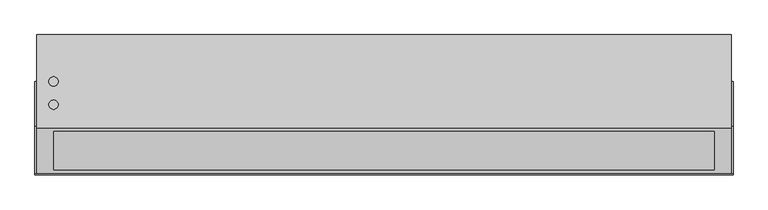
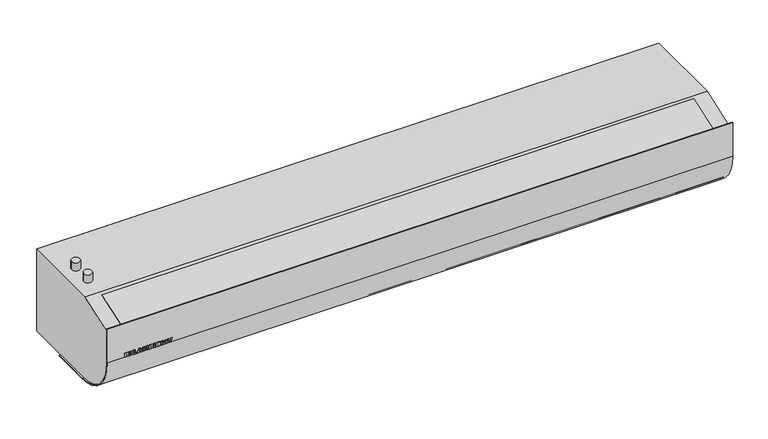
"""IFC4 building model written with IfcOpenShell, lengths in millimetres: proxy geometry, ИЗТТ_Завеса_Водяная : KVC-B15W14-11."""

import ifcopenshell
import ifcopenshell.guid

model = None  # the IFC model being written
_history = None  # IfcOwnerHistory: only IFC2X3 demands one
_inside = {}  # id of a spatial element -> (the spatial element, [elements in it])
_under = {}  # id of a project, library or spatial element -> (it, [spatial elements below it])
_declared = {}  # id of a project -> (the project, [libraries it declares])
_typed = {}  # id of a type object -> (the type object, [elements of that type])
_made_of = {}  # id of a material, layer set ... -> (it, [elements and type objects made of it])


def new_model(schema):
    """Start an empty IFC model of exactly this schema.

    Asked for "IFC4X3", IfcOpenShell would pick the latest addendum, in which some entities
    have other attributes; the version numbers below select the first issue.
    IFC2X3 requires an IfcOwnerHistory on every rooted entity: one is made here for all.
    """
    global model, _history
    if schema == "IFC4X3":
        model = ifcopenshell.file(schema_version=(4, 3, 0, 0))
    else:
        model = ifcopenshell.file(schema=schema)
    _inside.clear()
    _under.clear()
    _declared.clear()
    _typed.clear()
    _made_of.clear()
    _history = None
    if model.schema == "IFC2X3":
        org = make("IfcOrganization", Name="unknown")
        user = make(
            "IfcPersonAndOrganization",
            ThePerson=make("IfcPerson", FamilyName="unknown"),
            TheOrganization=org,
        )
        app = make(
            "IfcApplication",
            ApplicationDeveloper=org,
            Version="unknown",
            ApplicationFullName="unknown",
            ApplicationIdentifier="unknown",
        )
        _history = make(
            "IfcOwnerHistory",
            OwningUser=user,
            OwningApplication=app,
            ChangeAction="ADDED",
            CreationDate=0,
        )
    return model


def make(cls, **values):
    """One entity of the class cls with the attributes given. An attribute that is None is left unset."""
    return model.create_entity(
        cls, **{name: value for name, value in values.items() if value is not None}
    )


def rooted(cls, **values):
    """An entity with a GlobalId (a new one), such as an element, a storey or a relation."""
    return make(cls, GlobalId=ifcopenshell.guid.new(), OwnerHistory=_history, **values)


def si_unit(unit_type, name, prefix=None):
    """IfcSIUnit, for example si_unit("LENGTHUNIT", "METRE", prefix="MILLI")."""
    return make("IfcSIUnit", UnitType=unit_type, Prefix=prefix, Name=name)


def assignment(units):
    """IfcUnitAssignment: the units of a project."""
    return None if units is None else make("IfcUnitAssignment", Units=units)


def point(xyz):
    """IfcCartesianPoint."""
    return None if xyz is None else make("IfcCartesianPoint", Coordinates=xyz)


def direction(xyz):
    """IfcDirection."""
    return None if xyz is None else make("IfcDirection", DirectionRatios=xyz)


def frame(location, z_axis=None, x_axis=None):
    """IfcAxis2Placement3D, a coordinate frame: its origin and axes. An axis left out is left unset."""
    return make(
        "IfcAxis2Placement3D",
        Location=point(location),
        Axis=direction(z_axis),
        RefDirection=direction(x_axis),
    )


def frame_2d(location, x_axis=None):
    """IfcAxis2Placement2D, a coordinate frame in the plane: its origin and x axis."""
    return make(
        "IfcAxis2Placement2D", Location=point(location), RefDirection=direction(x_axis)
    )


def origin():
    """The frame at (0, 0, 0) with its axes left unset."""
    return frame((0.0, 0.0, 0.0))


def place(relative_to, where):
    """IfcLocalPlacement: puts the frame where relative to a parent placement (None: the world)."""
    return make(
        "IfcLocalPlacement", PlacementRelTo=relative_to, RelativePlacement=where
    )


def context(
    kind, dimensions, precision=None, world=None, true_north=None, identifier=None
):
    """IfcGeometricRepresentationContext, for example the 3D "Model" context."""
    return make(
        "IfcGeometricRepresentationContext",
        ContextIdentifier=identifier,
        ContextType=kind,
        CoordinateSpaceDimension=dimensions,
        Precision=precision,
        WorldCoordinateSystem=world,
        TrueNorth=true_north,
    )


def project(units=None, contexts=None):
    """IfcProject with its units and contexts."""
    return rooted(
        "IfcProject",
        Name="project",
        RepresentationContexts=contexts,
        UnitsInContext=assignment(units),
    )


def spatial(cls, under=None, at=None, **own):
    """A site, building, storey or space (cls), placed at a placement, below another one or the project."""
    s = rooted(cls, ObjectPlacement=at, **own)
    if under is not None:
        _under.setdefault(under.id(), (under, []))[1].append(s)
    return s


def polyline(points):
    """IfcPolyline through the points."""
    return make("IfcPolyline", Points=[point(p) for p in points])


def circle_curve(where, radius):
    """IfcCircle in the frame where."""
    return make("IfcCircle", Position=where, Radius=radius)


def trimmed(basis, trim1, trim2, sense, master):
    """IfcTrimmedCurve: the piece of a basis curve between two trims."""
    return make(
        "IfcTrimmedCurve",
        BasisCurve=basis,
        Trim1=trim1,
        Trim2=trim2,
        SenseAgreement=sense,
        MasterRepresentation=master,
    )


def segment(curve, same_sense, transition):
    """IfcCompositeCurveSegment."""
    return make(
        "IfcCompositeCurveSegment",
        Transition=transition,
        SameSense=same_sense,
        ParentCurve=curve,
    )


def composite_curve(segments, self_intersect=None):
    """IfcCompositeCurve: segments joined end to end."""
    return make("IfcCompositeCurve", Segments=segments, SelfIntersect=self_intersect)


def outline(outer, holes=None, kind="AREA"):
    """IfcArbitraryClosedProfileDef: a profile drawn as a closed curve; with holes, ...WithVoids."""
    if holes is None:
        return make("IfcArbitraryClosedProfileDef", ProfileType=kind, OuterCurve=outer)
    return make(
        "IfcArbitraryProfileDefWithVoids",
        ProfileType=kind,
        OuterCurve=outer,
        InnerCurves=holes,
    )


def extrude(swept, where, along, depth):
    """IfcExtrudedAreaSolid: the profile swept, set in the frame where, extruded along a direction by depth."""
    return make(
        "IfcExtrudedAreaSolid",
        SweptArea=swept,
        Position=where,
        ExtrudedDirection=direction(along),
        Depth=depth,
    )


def shape(context_of_items, identifier, shape_type, items):
    """IfcShapeRepresentation: the items that make up one representation, for example the "Body"."""
    return make(
        "IfcShapeRepresentation",
        ContextOfItems=context_of_items,
        RepresentationIdentifier=identifier,
        RepresentationType=shape_type,
        Items=items,
    )


def source(mapping_origin, context_of_items, identifier, shape_type, items):
    """IfcRepresentationMap: a shape defined once, which mapped items show again and again."""
    return make(
        "IfcRepresentationMap",
        MappingOrigin=mapping_origin,
        MappedRepresentation=shape(context_of_items, identifier, shape_type, items),
    )


def transform(
    local_origin,
    x_axis=None,
    y_axis=None,
    z_axis=None,
    scale=None,
    scale2=None,
    scale3=None,
    uniform=True,
):
    """IfcCartesianTransformationOperator3D, or its non-uniform kind. x_axis, y_axis, z_axis: its Axis1, 2, 3."""
    if uniform:
        return make(
            "IfcCartesianTransformationOperator3D",
            Axis1=direction(x_axis),
            Axis2=direction(y_axis),
            LocalOrigin=point(local_origin),
            Scale=scale,
            Axis3=direction(z_axis),
        )
    return make(
        "IfcCartesianTransformationOperator3DnonUniform",
        Axis1=direction(x_axis),
        Axis2=direction(y_axis),
        LocalOrigin=point(local_origin),
        Scale=scale,
        Axis3=direction(z_axis),
        Scale2=scale2,
        Scale3=scale3,
    )


def mapped(mapping_source, mapping_target):
    """IfcMappedItem: shows the shape of a source again, moved by a transform."""
    return make(
        "IfcMappedItem", MappingSource=mapping_source, MappingTarget=mapping_target
    )


def made_of(thing, what):
    """Note that an element or type object is made of a material, layer set ...; save() writes the relation."""
    if what is not None:
        _made_of.setdefault(what.id(), (what, []))[1].append(thing)
    return thing


def element(
    cls,
    number,
    at=None,
    inside=None,
    cuts=None,
    type_object=None,
    material=None,
    context=None,
    identifier="Body",
    shape_type=None,
    held_by="IfcProductDefinitionShape",
    body=None,
    shapes=None,
    **own,
):
    """One element of the class cls, such as IfcWall. Its Tag is "e" and its number.

    at: its placement. inside: the storey or other place that contains it. cuts: it is an
    opening in that element (IfcRelVoidsElement). A single representation is given by context,
    identifier, shape_type and body (its items); several are given by shapes. held_by: the class
    of the entity that holds the representations. save() writes the other relations.
    """
    e = rooted(cls, Tag="e%d" % number, ObjectPlacement=at, **own)
    if body is not None:
        shapes = [shape(context, identifier, shape_type, body)]
    if shapes is not None:
        e.Representation = make(held_by, Representations=shapes)
    if inside is not None:
        _inside.setdefault(inside.id(), (inside, []))[1].append(e)
    if cuts is not None:
        rooted(
            "IfcRelVoidsElement", RelatingBuildingElement=cuts, RelatedOpeningElement=e
        )
    if type_object is not None:
        _typed.setdefault(type_object.id(), (type_object, []))[1].append(e)
    return made_of(e, material)


def aggregate(whole, parts):
    """IfcRelAggregates: a whole, such as a stair, and the parts it consists of."""
    return rooted("IfcRelAggregates", RelatingObject=whole, RelatedObjects=parts)


def save(model, path):
    """Write the relations noted so far, then the file.

    IfcRelAggregates (storeys below a building ...), IfcRelContainedInSpatialStructure (elements
    in a storey), IfcRelDefinesByType, IfcRelAssociatesMaterial and IfcRelDeclares: one each for
    every whole, place, type object, material and project.
    """
    for whole, parts in _under.values():
        aggregate(whole, parts)
    for where, things in _inside.values():
        rooted(
            "IfcRelContainedInSpatialStructure",
            RelatedElements=things,
            RelatingStructure=where,
        )
    for kind, things in _typed.values():
        rooted("IfcRelDefinesByType", RelatedObjects=things, RelatingType=kind)
    for what, things in _made_of.values():
        rooted("IfcRelAssociatesMaterial", RelatedObjects=things, RelatingMaterial=what)
    for by, libraries in _declared.values():
        rooted("IfcRelDeclares", RelatingContext=by, RelatedDefinitions=libraries)
    model.write(path)


def plane_surface(at):
    """IfcPlane: the flat surface through the origin of the frame at, square to its z axis."""
    return make("IfcPlane", Position=at)


def cylinder_surface(at, radius):
    """IfcCylindricalSurface: all points at the distance radius from the z axis of the frame at."""
    return make("IfcCylindricalSurface", Position=at, Radius=radius)


def advanced_brep(points, edges, surfaces, faces):
    """IfcAdvancedBrep: a solid bounded by faces that lie on surfaces and meet in shared edges.

    An edge is (start, end): straight between two places in points (the first is 0);
    or (start, end, curve); or (start, end, curve, False) where it runs against its curve.
    A face is (place in surfaces, loops), or (place, loops, False) where it looks against
    its surface's normal. A loop lists edges by number (the first is 1), with a minus sign
    where the edge is run from its end to its start. The first loop is the outer one.
    """
    corners = [point(p) for p in points]
    vertices = [make("IfcVertexPoint", VertexGeometry=c) for c in corners]
    made = []
    for start, end, *more in edges:
        made.append(
            make(
                "IfcEdgeCurve",
                EdgeStart=vertices[start],
                EdgeEnd=vertices[end],
                EdgeGeometry=more[0] if more else make("IfcPolyline", Points=[corners[start], corners[end]]),
                SameSense=more[1] if len(more) > 1 else True,
            )
        )
    hull = []
    for where, loops, *sense in faces:
        bounds = []
        for j, loop in enumerate(loops):
            ring = [make("IfcOrientedEdge", EdgeElement=made[abs(k) - 1], Orientation=k > 0) for k in loop]
            bounds.append(
                make(
                    "IfcFaceOuterBound" if j == 0 else "IfcFaceBound",
                    Bound=make("IfcEdgeLoop", EdgeList=ring),
                    Orientation=True,
                )
            )
        hull.append(make("IfcAdvancedFace", Bounds=bounds, FaceSurface=surfaces[where], SameSense=sense[0] if sense else True))
    return make("IfcAdvancedBrep", Outer=make("IfcClosedShell", CfsFaces=hull))


def mechanical_equipment_baf8c299(model_context):
    return source(origin(), model_context, "Body", "SolidModel", [
        extrude(outline(polyline([(114.5, -709.0196078), (104.5, -709.0196078), (104.5, -705.8823529), (106.2647059, -705.8823529), (108.2745098, -704.1115196), (104.5, -702.2794118), (104.5, -698.4313725), (110.7775735, -701.9056373), (114.5, -698.627451), (114.5, -702.8982843), (110.7224265, -705.8823529), (114.5, -705.8823529), (114.5, -709.0196078)])), frame((0.0, -302.0, 0.0), z_axis=(0.0, 1.0, 0.0), x_axis=(0.0, 0.0, 1.0)), (0.0, 0.0, 1.0), 1.0),
        extrude(outline(polyline([(106.0686275, -691.4338235), (104.5, -690.9803922), (104.5, -687.6470588), (114.5, -691.0202206), (114.5, -695.0582108), (104.5, -698.4313725), (104.5, -695.0980392), (106.0686275, -694.6660539), (106.0686275, -691.4338235)]), holes=[polyline([(108.4215686, -692.0281863), (108.4215686, -694.0165441), (111.9540441, -693.0392157), (108.4215686, -692.0281863)])]), frame((0.0, -302.0, 0.0), z_axis=(0.0, 1.0, 0.0), x_axis=(0.0, 0.0, 1.0)), (0.0, 0.0, 1.0), 1.0),
        extrude(outline(polyline([(114.5, -686.6666667), (104.5, -686.6666667), (104.5, -678.8235294), (106.8529412, -678.8235294), (106.8529412, -683.5294118), (114.5, -683.5294118), (114.5, -686.6666667)])), frame((0.0, -302.0, 0.0), z_axis=(0.0, 1.0, 0.0), x_axis=(0.0, 0.0, 1.0)), (0.0, 0.0, 1.0), 1.0),
        extrude(outline(polyline([(106.0686275, -671.4338235), (104.5, -670.9803922), (104.5, -667.6470588), (114.5, -671.0202206), (114.5, -675.0582108), (104.5, -678.4313725), (104.5, -675.0980392), (106.0686275, -674.6660539), (106.0686275, -671.4338235)]), holes=[polyline([(108.4215686, -672.0281863), (108.4215686, -674.0165441), (111.9540441, -673.0392157), (108.4215686, -672.0281863)])]), frame((0.0, -302.0, 0.0), z_axis=(0.0, 1.0, 0.0), x_axis=(0.0, 0.0, 1.0)), (0.0, 0.0, 1.0), 1.0),
        extrude(outline(polyline([(107.8394608, -667.254902), (105.3026961, -666.1488971), (104.3039216, -662.6378676), (104.7297794, -660.2420343), (105.9813113, -658.7637868), (107.78125, -658.2352941), (109.2870711, -658.6305147), (110.4129902, -659.8958333), (111.3106618, -662.7757353), (112.9313725, -662.9074755), (112.6050858, -662.1338848), (111.5588235, -661.7647059), (111.7395833, -658.627451), (113.9883578, -659.8054534), (114.6960784, -662.6807598), (114.3039216, -665.1011029), (113.2285539, -666.4231005), (111.776348, -666.8627451), (109.8492647, -665.9957108), (108.6237745, -663.1219363), (107.3186275, -661.372549), (106.5818015, -661.6865809), (106.2647059, -662.5796569), (106.8958333, -663.7775735), (108.0294118, -664.1176471), (107.8394608, -667.254902)])), frame((0.0, -302.0, 0.0), z_axis=(0.0, 1.0, 0.0), x_axis=(0.0, 0.0, 1.0)), (0.0, 0.0, 1.0), 1.0),
        extrude(outline(polyline([(114.5, -656.6666667), (104.5, -656.6666667), (104.5, -653.5294118), (108.6176471, -653.5294118), (108.6176471, -650.1960784), (104.5, -650.1960784), (104.5, -647.0588235), (114.5, -647.0588235), (114.5, -650.1960784), (110.9705882, -650.1960784), (110.9705882, -653.5294118), (114.5, -653.5294118), (114.5, -656.6666667)])), frame((0.0, -302.0, 0.0), z_axis=(0.0, 1.0, 0.0), x_axis=(0.0, 0.0, 1.0)), (0.0, 0.0, 1.0), 1.0),
        extrude(outline(polyline([(114.5, -645.0980392), (104.5, -645.0980392), (104.5, -642.1568627), (109.9901961, -642.1568627), (104.5, -638.4313725), (104.5, -635.4901961), (114.5, -635.4901961), (114.5, -638.4313725), (108.9730392, -638.4313725), (114.5, -642.1783088), (114.5, -645.0980392)])), frame((0.0, -302.0, 0.0), z_axis=(0.0, 1.0, 0.0), x_axis=(0.0, 0.0, 1.0)), (0.0, 0.0, 1.0), 1.0),
        extrude(outline(polyline([(-630.1960784, -302.0), (-633.3333333, -302.0), (-633.3333333, -301.0), (-630.1960784, -301.0), (-630.1960784, -302.0)])), frame((0.0, 0.0, 104.5), z_axis=(0.0, 0.0, 1.0), x_axis=(1.0, 0.0, 0.0)), (0.0, 0.0, 1.0), 10.0),
        extrude(outline(polyline([(114.5, -628.0392157), (104.5, -628.0392157), (104.5, -624.9019608), (106.2647059, -624.9019608), (108.2745098, -623.1311275), (104.5, -621.2990196), (104.5, -617.4509804), (110.7775735, -620.9252451), (114.5, -617.6470588), (114.5, -621.9178922), (110.7224265, -624.9019608), (114.5, -624.9019608), (114.5, -628.0392157)])), frame((0.0, -302.0, 0.0), z_axis=(0.0, 1.0, 0.0), x_axis=(0.0, 0.0, 1.0)), (0.0, 0.0, 1.0), 1.0),
        extrude(outline(polyline([(109.4938725, -616.8627451), (106.5603554, -616.171875), (104.846201, -614.3688725), (104.3039216, -611.5594363), (104.9304534, -608.7729779), (106.6859681, -607.0618873), (109.5765931, -606.4705882), (113.3495711, -607.8247549), (114.6960784, -611.685049), (113.3250613, -615.4947917), (109.4938725, -616.8627451)]), holes=[polyline([(109.4938725, -613.7254902), (111.6813725, -613.1678922), (112.3431373, -611.6911765), (111.6920956, -610.1685049), (109.6286765, -609.6078431), (107.3048407, -610.145527), (106.6568627, -611.6636029), (107.3186275, -613.1709559), (109.4938725, -613.7254902)])]), frame((0.0, -302.0, 0.0), z_axis=(0.0, 1.0, 0.0), x_axis=(0.0, 0.0, 1.0)), (0.0, 0.0, 1.0), 1.0),
        extrude(outline(polyline([(114.5, -605.6862745), (104.5, -601.9699755), (104.5, -598.6397059), (114.5, -594.9019608), (114.5, -598.2352941), (107.3033088, -600.2941176), (114.5, -602.3560049), (114.5, -605.6862745)])), frame((0.0, -302.0, 0.0), z_axis=(0.0, 1.0, 0.0), x_axis=(0.0, 0.0, 1.0)), (0.0, 0.0, 1.0), 1.0),
        extrude(outline(polyline([(-20.0555556, 10.0), (-20.0555556, 0.0), (-36.1111111, 10.0), (-36.1111111, 0.0), (-52.1666667, 10.0), (-52.1666667, 0.0), (-68.2222222, 10.0), (-68.2222222, 0.0), (-84.2777778, 10.0), (-84.2777778, 0.0), (-100.2499831, 10.5360909), (-4.0, 10.5360909), (-4.0, 0.0), (-20.0555556, 10.0)])), frame((-710.0, 0.0, 0.0), z_axis=(1.0, 0.0, 0.0), x_axis=(0.0, 1.0, 0.0)), (0.0, 0.0, 1.0), 1420.0),
        advanced_brep(
        [(746.0, -200.6666667, 209.0), (746.0, -299.0, 174.0), (746.0, -299.0, 104.5), (746.0, -196.5, 2.0), (746.0, 0.0, 2.0), (746.0, 0.0, 209.0), (-746.0, -200.6666667, 209.0), (-746.0, 0.0, 209.0), (-746.0, 0.0, 2.0), (-746.0, -196.5, 2.0), (-746.0, -299.0, 104.5), (-746.0, -299.0, 174.0), (-700.0, -150.5, 209.0), (-720.0, -150.5, 209.0), (-700.0, -100.3333333, 209.0), (-720.0, -100.3333333, 209.0), (710.0, -4.0, 2.0), (-710.0, -4.0, 2.0), (-710.0, -100.3333333, 2.0), (710.0, -100.3333333, 2.0), (710.0, -4.0, 10.0), (710.0, -100.3333333, 10.0), (-710.0, -100.3333333, 10.0), (-710.0, -4.0, 10.0), (-720.0, -150.5, 229.0), (-700.0, -150.5, 229.0), (-720.0, -100.3333333, 229.0), (-700.0, -100.3333333, 229.0)],
        [
            (0, 1),
            (1, 2),
            (2, 3, circle_curve(frame((746.0, -196.5, 104.5), z_axis=(1.0, 0.0, 0.0), x_axis=(0.0, 1.0, 0.0)), 102.5)),
            (3, 4),
            (4, 5),
            (5, 0),
            (6, 7),
            (7, 8),
            (8, 9),
            (9, 10, circle_curve(frame((-746.0, -196.5, 104.5), z_axis=(-1.0, 0.0, 0.0), x_axis=(0.0, 1.0, 0.0)), 102.5)),
            (10, 11),
            (11, 6),
            (1, 11),
            (10, 2),
            (4, 8),
            (7, 5),
            (6, 0),
            (12, 13, circle_curve(frame((-710.0, -150.5, 209.0), z_axis=(0.0, 0.0, -1.0), x_axis=(1.0, 0.0, 0.0)), 10.0)),
            (13, 12, circle_curve(frame((-710.0, -150.5, 209.0), z_axis=(0.0, 0.0, -1.0), x_axis=(1.0, 0.0, 0.0)), 10.0)),
            (14, 15, circle_curve(frame((-710.0, -100.3333333, 209.0), z_axis=(0.0, 0.0, -1.0), x_axis=(1.0, 0.0, 0.0)), 10.0)),
            (15, 14, circle_curve(frame((-710.0, -100.3333333, 209.0), z_axis=(0.0, 0.0, -1.0), x_axis=(1.0, 0.0, 0.0)), 10.0)),
            (9, 3),
            (16, 17),
            (17, 18),
            (18, 19),
            (19, 16),
            (20, 21),
            (21, 22),
            (22, 23),
            (23, 20),
            (23, 17),
            (16, 20),
            (22, 18),
            (21, 19),
            (24, 25, circle_curve(frame((-710.0, -150.5, 229.0), z_axis=(0.0, 0.0, 1.0), x_axis=(1.0, 0.0, 0.0)), 10.0)),
            (25, 24, circle_curve(frame((-710.0, -150.5, 229.0), z_axis=(0.0, 0.0, 1.0), x_axis=(1.0, 0.0, 0.0)), 10.0)),
            (26, 27, circle_curve(frame((-710.0, -100.3333333, 229.0), z_axis=(0.0, 0.0, 1.0), x_axis=(1.0, 0.0, 0.0)), 10.0)),
            (27, 26, circle_curve(frame((-710.0, -100.3333333, 229.0), z_axis=(0.0, 0.0, 1.0), x_axis=(1.0, 0.0, 0.0)), 10.0)),
            (24, 13),
            (12, 25),
            (26, 15),
            (14, 27),
        ],
        [
            plane_surface(frame((746.0, -200.6666667, 209.0), z_axis=(1.0, 0.0, 0.0), x_axis=(0.0, -0.942102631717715, -0.3353246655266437))),
            plane_surface(frame((-746.0, -200.6666667, 209.0), z_axis=(-1.0, 0.0, 0.0), x_axis=(0.0, 0.942102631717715, 0.3353246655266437))),
            plane_surface(frame((746.0, -299.0, 174.0), z_axis=(0.0, -1.0, 0.0), x_axis=(-1.0, 0.0, 0.0))),
            plane_surface(frame((746.0, 0.0, 2.0), z_axis=(0.0, 1.0, 0.0), x_axis=(-1.0, 0.0, 0.0))),
            plane_surface(frame((746.0, 0.0, 209.0), z_axis=(0.0, 0.0, 1.0), x_axis=(-1.0, 0.0, 0.0))),
            cylinder_surface(frame((-746.0, -196.5, 104.5), z_axis=(1.0, 0.0, 0.0), x_axis=(0.0, 1.0, 0.0)), 102.5),
            plane_surface(frame((746.0, -196.5, 2.0), z_axis=(0.0, 0.0, -1.0), x_axis=(-1.0, 0.0, 0.0))),
            plane_surface(frame((746.0, -200.6666667, 209.0), z_axis=(0.0, -0.3353246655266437, 0.942102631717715), x_axis=(-1.0, 0.0, 0.0))),
            plane_surface(frame((-710.0, -4.0, 10.0), z_axis=(0.0, 0.0, -1.0), x_axis=(-1.0, 0.0, 0.0))),
            plane_surface(frame((710.0, -4.0, 10.0), z_axis=(0.0, -1.0, 0.0), x_axis=(0.0, 0.0, -1.0))),
            plane_surface(frame((-710.0, -4.0, 10.0), z_axis=(1.0, 0.0, 0.0), x_axis=(0.0, 0.0, -1.0))),
            plane_surface(frame((-710.0, -100.3333333, 10.0), z_axis=(0.0, 1.0, 0.0), x_axis=(0.0, 0.0, -1.0))),
            plane_surface(frame((710.0, -100.3333333, 10.0), z_axis=(-1.0, 0.0, 0.0), x_axis=(0.0, 0.0, -1.0))),
            plane_surface(frame((-700.0, -150.5, 229.0), z_axis=(0.0, 0.0, 1.0), x_axis=(0.0, 1.0, 0.0))),
            cylinder_surface(frame((-710.0, -150.5, 209.0), z_axis=(0.0, 0.0, 1.0), x_axis=(1.0, 0.0, 0.0)), 10.0),
            cylinder_surface(frame((-710.0, -100.3333333, 0.0), z_axis=(0.0, 0.0, 1.0), x_axis=(1.0, 0.0, 0.0)), 10.0),
        ],
        [
            (0, [[1, 2, 3, 4, 5, 6]]),
            (1, [[7, 8, 9, 10, 11, 12]]),
            (2, [[-2, 13, -11, 14]]),
            (3, [[-5, 15, -8, 16]]),
            (4, [[-6, -16, -7, 17], [18, 19], [20, 21]]),
            (5, [[-3, -14, -10, 22]]),
            (6, [[-4, -22, -9, -15], [23, 24, 25, 26]]),
            (7, [[-1, -17, -12, -13]]),
            (8, [[27, 28, 29, 30]]),
            (9, [[-30, 31, -23, 32]]),
            (10, [[-29, 33, -24, -31]]),
            (11, [[-28, 34, -25, -33]]),
            (12, [[-27, -32, -26, -34]]),
            (13, [[35, 36]]),
            (13, [[37, 38]]),
            (14, [[-35, 39, -18, 40]]),
            (14, [[-36, -40, -19, -39]]),
            (15, [[-37, 41, -20, 42]]),
            (15, [[-38, -42, -21, -41]]),
        ],
    ),
        extrude(outline(polyline([(0.0, -87.5907467), (0.0, 0.0), (1420.0, 0.0), (1420.0, -87.5907467), (0.0, -87.5907467)])), frame((710.0, -290.390912, 176.3755808), z_axis=(0.0, -0.3353246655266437, 0.942102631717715), x_axis=(-1.0, 0.0, 0.0)), (0.0, 0.0, 1.0), 1.2975972),
        extrude(outline(composite_curve([segment(polyline([(-301.0, 189.0), (-299.0, 189.0), (-299.0, 104.5)]), True, "CONTINUOUS"), segment(trimmed(circle_curve(frame_2d((-196.5, 104.5)), 102.5), [point((-299.0, 104.5))], [point((-196.5, 2.0))], True, "CARTESIAN"), True, "CONTINUOUS"), segment(polyline([(-196.5, 2.0), (-100.3333333, 2.0), (-100.3333333, 0.0), (-196.5, 0.0)]), True, "CONTINUOUS"), segment(trimmed(circle_curve(frame_2d((-196.5, 104.5)), 104.5), [point((-196.5, 0.0))], [point((-301.0, 104.5))], False, "CARTESIAN"), True, "CONTINUOUS"), segment(polyline([(-301.0, 104.5), (-301.0, 189.0)]), True, "CONTINUOUS")], self_intersect=False)), frame((-750.0, 0.0, 0.0), z_axis=(1.0, 0.0, 0.0), x_axis=(0.0, 1.0, 0.0)), (0.0, 0.0, 1.0), 1500.0),
    ])


if __name__ == "__main__":
    model = new_model("IFC4")
    model_context = context("Model", 3, world=origin())
    ifc_project = project(units=[si_unit("LENGTHUNIT", "METRE", prefix="MILLI")], contexts=[model_context])
    site = spatial("IfcSite", under=ifc_project)
    building = spatial("IfcBuilding", under=site)
    placement = place(None, origin())
    mechanical_equipment_shape = mechanical_equipment_baf8c299(model_context)
    element("IfcBuildingElementProxy", 1, Name="ИЗТТ_Завеса_Водяная : KVC-B15W14-11", ObjectType="ИЗТТ_Завеса_Водяная : KVC-B15W14-11", at=placement, inside=building, context=model_context, shape_type="MappedRepresentation", body=[
        mapped(mechanical_equipment_shape, transform((0.0, 0.0, 0.0), x_axis=(1.0, 0.0, 0.0), y_axis=(0.0, 1.0, 0.0), z_axis=(0.0, 0.0, 1.0))),
    ])
    save(model, "model.ifc")
